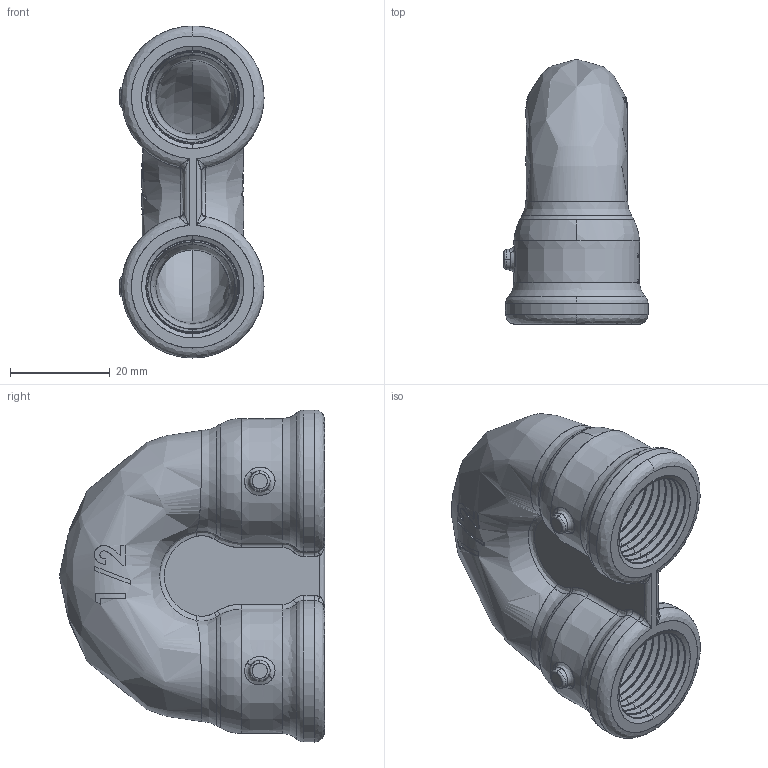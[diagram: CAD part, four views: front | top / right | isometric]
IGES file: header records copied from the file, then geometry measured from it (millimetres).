
Start section: SolidWorks IGES file using analytic representation for surfaces
Global section: file name: C:\Users\Joel Rosa\Desktop\Tubulação\12-29-OK\12-29-004.IGS; native system: SolidWorks 2011; preprocessor: SolidWorks 2011; author: Joel Rosa; date: 131026.104541; units: millimetre
Bounding box: 28.9 x 53.2 x 66.6 mm (x, y, z)
Surface area: 15971.5 mm2 (no closed solid volume)
Topology: 0 solids, 0 shells, 365 faces, 3319 edges, 3315 vertices
Faces by surface type: bspline 265, revolution 100
